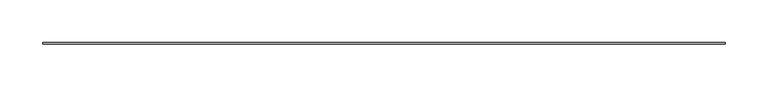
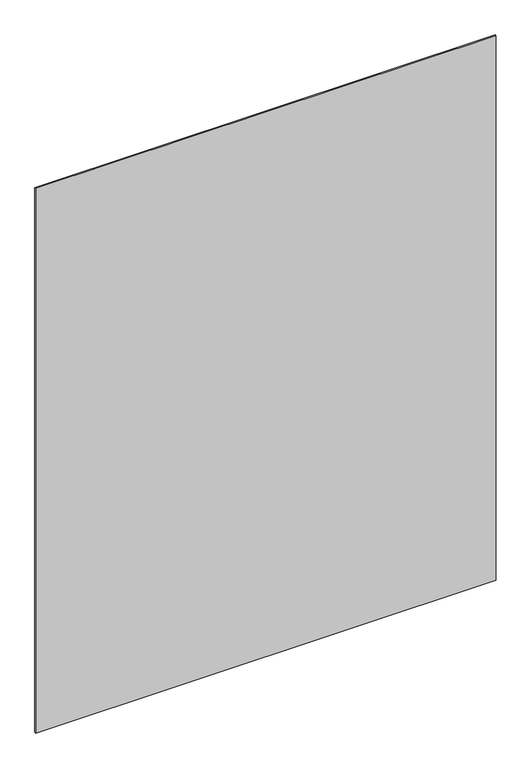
"""IFC4 building model written with IfcOpenShell, lengths in millimetres: proxy geometry, Espelho 01 : Espelho 0,80 x 1."""

from ifc_helpers import new_model, si_unit, frame, origin, place, context, project, spatial, polyline, outline, extrude, source, transform, mapped, element, save


def generic_models_6948a14a(model_context):
    return source(origin(), model_context, "Body", "SweptSolid", [
        extrude(outline(polyline([(236.7043203, 77.0), (1036.7043203, 77.0), (1036.7043203, 75.0), (236.7043203, 75.0), (236.7043203, 77.0)])), frame((0.0, 0.0, 1406.7594958), z_axis=(0.0, 0.0, 1.0), x_axis=(1.0, 0.0, 0.0)), (0.0, 0.0, 1.0), 1000.0),
    ])


if __name__ == "__main__":
    model = new_model("IFC4")
    model_context = context("Model", 3, world=origin())
    ifc_project = project(units=[si_unit("LENGTHUNIT", "METRE", prefix="MILLI")], contexts=[model_context])
    site = spatial("IfcSite", under=ifc_project)
    building = spatial("IfcBuilding", under=site)
    placement = place(None, origin())
    generic_models_shape = generic_models_6948a14a(model_context)
    element("IfcBuildingElementProxy", 1, Name="Espelho 01 : Espelho 0,80 x 1", ObjectType="Espelho 01 : Espelho 0,80 x 1", at=placement, inside=building, context=model_context, shape_type="MappedRepresentation", body=[
        mapped(generic_models_shape, transform((0.0, 0.0, 0.0), x_axis=(1.0, 0.0, 0.0), y_axis=(0.0, 1.0, 0.0), z_axis=(0.0, 0.0, 1.0))),
    ])
    save(model, "model.ifc")
